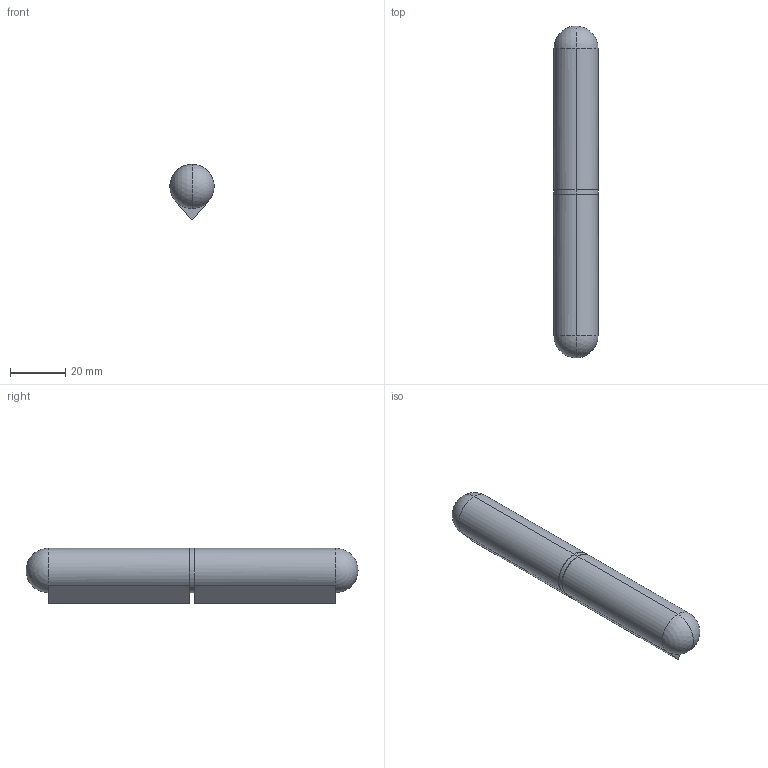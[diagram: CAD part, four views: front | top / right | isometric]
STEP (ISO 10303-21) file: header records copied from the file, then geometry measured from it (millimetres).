
FILE_DESCRIPTION (( 'STEP AP214' ), '1' );
FILE_NAME ('7011.00.120.STEP', '2021-01-21T03:31:30', ( '' ), ( '' ), 'SwSTEP 2.0', 'SolidWorks 2018', '' );
FILE_SCHEMA (( 'AUTOMOTIVE_DESIGN' ));
Length unit declared in the file: millimetre
Products named in the file (4): 7011.00.120; 7011.00-3_7011.00.120; 7011.00-1_7004.00.120; 7011.00-2_7011.00.120
Assembly tree (4 placements, depth 2):
  7011.00.120
    7011.00-1_7004.00.120  x2
    7011.00-2_7011.00.120
    7011.00-3_7011.00.120
Bounding box: 16 x 120 x 20 mm (x, y, z)
Volume: 24572.3 mm3; surface area: 13395.5 mm2
Topology: 4 solids, 4 shells, 45 faces, 104 edges, 63 vertices
Faces by surface type: cylinder 18, plane 13, torus 8, sphere 6
Entity records: 1100 total; most frequent: DIRECTION 188, CARTESIAN_POINT 142, ORIENTED_EDGE 128, AXIS2_PLACEMENT_3D 85, EDGE_CURVE 64, CIRCLE 46, VERTEX_POINT 39, EDGE_LOOP 35
